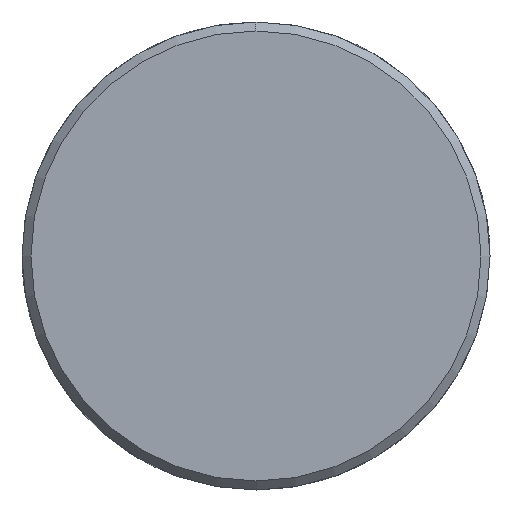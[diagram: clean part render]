
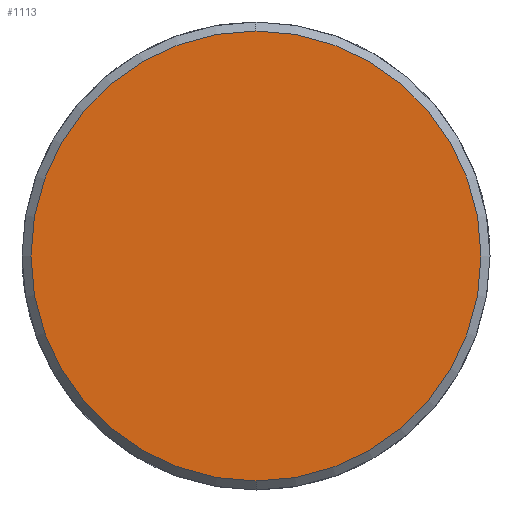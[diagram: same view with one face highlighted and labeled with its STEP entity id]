
A CAD part, left-side view. The second image highlights one B-rep face of the part: STEP entity #1113.
In plain terms, the highlighted planar face has unit normal (-1, 0, 0).
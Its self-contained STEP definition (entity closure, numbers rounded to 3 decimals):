
#1045=CARTESIAN_POINT('Vertex',(-8.,0.,-25.)) ;
#1048=CARTESIAN_POINT('Axis2P3D Location',(-8.,0.,0.)) ;
#1052=CARTESIAN_POINT('Vertex',(-8.,25.,0.)) ;
#1055=CARTESIAN_POINT('Axis2P3D Location',(-8.,0.,0.)) ;
#1059=CARTESIAN_POINT('Vertex',(-8.,0.,25.)) ;
#1081=CARTESIAN_POINT('Axis2P3D Location',(-8.,0.,0.)) ;
#1085=CARTESIAN_POINT('Vertex',(-8.,-25.,0.)) ;
#1088=CARTESIAN_POINT('Axis2P3D Location',(-8.,0.,0.)) ;
#1102=CARTESIAN_POINT('Axis2P3D Location',(-8.,0.,0.)) ;
#1049=DIRECTION('Axis2P3D Direction',(1.,0.,-0.)) ;
#1056=DIRECTION('Axis2P3D Direction',(1.,0.,-0.)) ;
#1082=DIRECTION('Axis2P3D Direction',(1.,0.,-0.)) ;
#1089=DIRECTION('Axis2P3D Direction',(1.,0.,-0.)) ;
#1103=DIRECTION('Axis2P3D Direction',(1.,0.,-0.)) ;
#1104=DIRECTION('Axis2P3D XDirection',(-0.,0.,-1.)) ;
#1050=AXIS2_PLACEMENT_3D('Circle Axis2P3D',#1048,#1049,$) ;
#1057=AXIS2_PLACEMENT_3D('Circle Axis2P3D',#1055,#1056,$) ;
#1083=AXIS2_PLACEMENT_3D('Circle Axis2P3D',#1081,#1082,$) ;
#1090=AXIS2_PLACEMENT_3D('Circle Axis2P3D',#1088,#1089,$) ;
#1105=AXIS2_PLACEMENT_3D('Plane Axis2P3D',#1102,#1103,#1104) ;
#1108=ORIENTED_EDGE('',*,*,#1054,.F.) ;
#1109=ORIENTED_EDGE('',*,*,#1092,.F.) ;
#1110=ORIENTED_EDGE('',*,*,#1087,.F.) ;
#1111=ORIENTED_EDGE('',*,*,#1061,.F.) ;
#1113=ADVANCED_FACE('351-40X96X160',(#1112),#1106,.F.) ;
#1051=CIRCLE('generated circle',#1050,25.) ;
#1058=CIRCLE('generated circle',#1057,25.) ;
#1084=CIRCLE('generated circle',#1083,25.) ;
#1091=CIRCLE('generated circle',#1090,25.) ;
#1054=EDGE_CURVE('',#1046,#1053,#1051,.T.) ;
#1061=EDGE_CURVE('',#1053,#1060,#1058,.T.) ;
#1087=EDGE_CURVE('',#1060,#1086,#1084,.T.) ;
#1092=EDGE_CURVE('',#1086,#1046,#1091,.T.) ;
#1107=EDGE_LOOP('',(#1108,#1109,#1110,#1111)) ;
#1112=FACE_OUTER_BOUND('',#1107,.T.) ;
#1106=PLANE('Plane',#1105) ;
#1046=VERTEX_POINT('',#1045) ;
#1053=VERTEX_POINT('',#1052) ;
#1060=VERTEX_POINT('',#1059) ;
#1086=VERTEX_POINT('',#1085) ;
